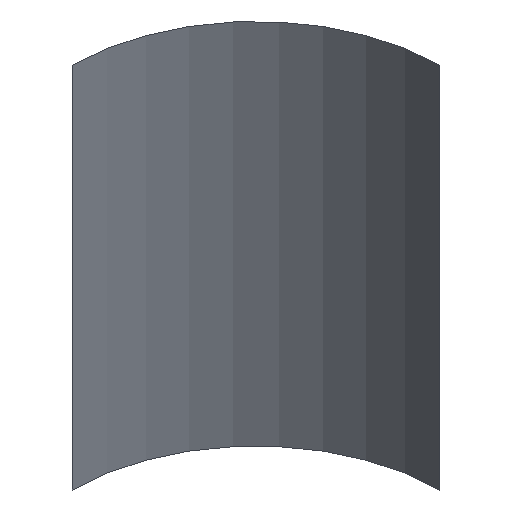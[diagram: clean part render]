
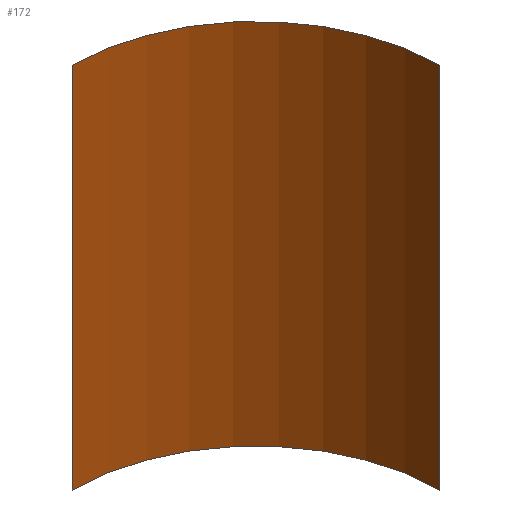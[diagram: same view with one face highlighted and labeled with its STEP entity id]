
A CAD part, isometric view. The second image highlights one B-rep face of the part: STEP entity #172.
In plain terms, the highlighted free-form (B-spline) face has degree [2, 1] with [3, 2] control points.
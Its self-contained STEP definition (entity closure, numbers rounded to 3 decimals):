
#1 = DIRECTION('',(0.,0.,1.));
#2 = DIRECTION('',(1.,0.,0.));
#20 = CARTESIAN_POINT('',(5.,0.,0.));
#21 = CARTESIAN_POINT('',(5.,0.,10.));
#22 = CARTESIAN_POINT('',(5.,5.,0.));
#23 = CARTESIAN_POINT('',(5.,5.,10.));
#24 = CARTESIAN_POINT('',(0.,5.,0.));
#25 = CARTESIAN_POINT('',(0.,5.,10.));
#40 = ( BOUNDED_SURFACE()
  B_SPLINE_SURFACE(2,1,((#20,#21),(#22,#23),(#24,#25)),.UNSPECIFIED.,.F.,.F.,.F.)
  B_SPLINE_SURFACE_WITH_KNOTS((3,3),(2,2),(0.,1.),(0.,1.),.UNSPECIFIED.)
  GEOMETRIC_REPRESENTATION_ITEM()
  RATIONAL_B_SPLINE_SURFACE(((1.,1.),(0.707,0.707),(1.,1.)))
  REPRESENTATION_ITEM('') SURFACE() );
#50 = CARTESIAN_POINT('',(0.,0.,0.));
#51 = CARTESIAN_POINT('',(0.,0.,10.));
#52 = AXIS2_PLACEMENT_3D('',#50,#1,#2);
#53 = AXIS2_PLACEMENT_3D('',#51,#1,#2);
#54 = CIRCLE('',#52,5.);
#55 = CIRCLE('',#53,5.);
#56 = VECTOR('',#1,10.);
#57 = LINE('',#20,#56);
#58 = LINE('',#24,#56);
#60 = VERTEX_POINT('',#20);
#61 = VERTEX_POINT('',#24);
#62 = VERTEX_POINT('',#21);
#63 = VERTEX_POINT('',#25);
#70 = EDGE_CURVE('',#60,#61,#54,.T.);
#71 = EDGE_CURVE('',#61,#63,#58,.T.);
#72 = EDGE_CURVE('',#62,#63,#55,.T.);
#73 = EDGE_CURVE('',#60,#62,#57,.T.);
#1701 = ORIENTED_EDGE('',*,*,#70,.T.);
#1702 = ORIENTED_EDGE('',*,*,#71,.T.);
#1703 = ORIENTED_EDGE('',*,*,#72,.F.);
#1704 = ORIENTED_EDGE('',*,*,#73,.F.);
#170 = EDGE_LOOP('',(#1701,#1702,#1703,#1704));
#171 = FACE_OUTER_BOUND('',#170,.T.);
#172 = ADVANCED_FACE('sheet',(#171),#40,.T.);
